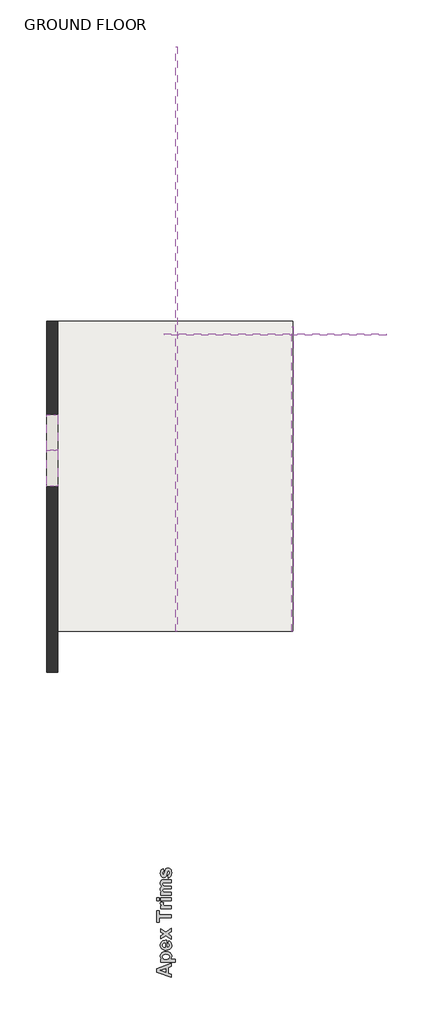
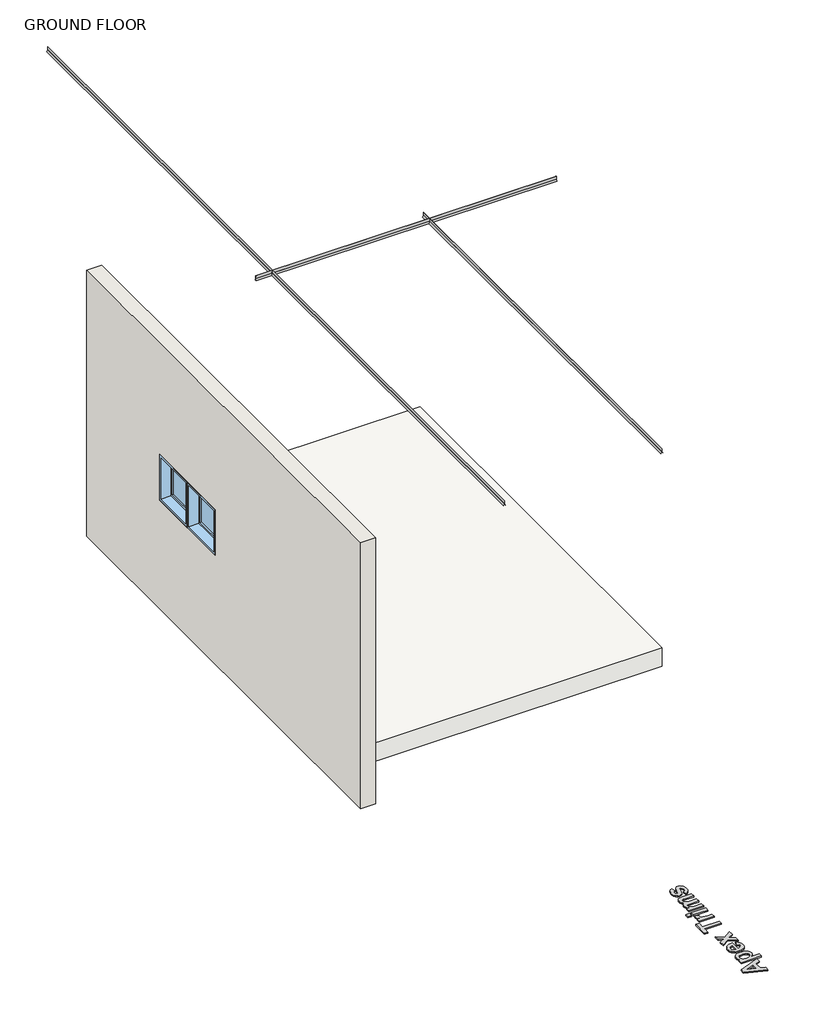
# One storey: 4 proxies, 2 windows, 1 slab, 1 wall.
"""IFC4 building model written with IfcOpenShell, lengths in millimetres."""

from ifc_helpers import new_model, si_unit, frame, origin, origin_with_axes, place, context, project, spatial, polyline, outline, extrude, transform, mapped, element, save
from components import tr11_f217a9d7, m_fixed_0610_x_0610mm_09852ef8

model = new_model("IFC4")

# Units and contexts
model_context = context("Model", 3, world=origin())
ifc_project = project(units=[si_unit("LENGTHUNIT", "METRE", prefix="MILLI")], contexts=[model_context])

# Site, building, storey
site = spatial("IfcSite", under=ifc_project)
building = spatial("IfcBuilding", under=site)
storey = spatial("IfcBuildingStorey", under=building, Name="GROUND FLOOR", Elevation=0.0)

# Proxies
placement = place(None, origin())
element("IfcBuildingElementProxy", 1, Name="600mm Arial", ObjectType="600mm Arial", at=placement, inside=storey, context=model_context, shape_type="SweptSolid", body=[
    extrude(outline(polyline([(182388.4751045, 31334.3130986), (182388.4751045, 31283.2621725), (182331.7940267, 31263.271971), (182331.7940267, 31166.9267908), (182388.4751045, 31147.1896298), (182388.4751045, 31095.4428422), (182133.4102545, 31188.5617557), (182133.4102545, 31240.3085432), (182388.4751045, 31334.3130986)]), holes=[polyline([(182287.2588942, 31247.7099786), (182194.1399807, 31214.8779704), (182287.2588942, 31182.4887831), (182287.2588942, 31247.7099786)])]), origin_with_axes(), (0.0, 0.0, 1.0), 15.0),
    extrude(outline(polyline([(182202.2372775, 31358.604989), (182202.2372775, 31407.18877), (182229.0595732, 31407.18877), (182216.5815123, 31417.2313159), (182206.7287468, 31430.278718), (182200.3236585, 31445.6351149), (182198.1886291, 31462.6046451), (182199.776063, 31477.4885679), (182204.5383648, 31491.2061321), (182212.4755344, 31503.7573375), (182223.5875719, 31515.1421843), (182237.5305002, 31524.5936433), (182253.9603425, 31531.3446855), (182294.2807688, 31536.7455192), (182335.7003398, 31531.1707201), (182352.507766, 31524.2022213), (182366.7136193, 31514.4463229), (182378.0055527, 31502.7056378), (182386.0712195, 31489.7827791), (182390.9106196, 31475.6777467), (182392.5237529, 31460.3905405), (182391.0213248, 31445.9830456), (182386.5140404, 31432.9989036), (182365.8912376, 31407.18877), (182457.3021275, 31407.18877), (182457.3021275, 31358.604989), (182202.2372775, 31358.604989)]), holes=[polyline([(182292.1299243, 31407.18877), (182320.5653534, 31410.2331638), (182340.4606647, 31419.3663453), (182352.1796041, 31432.8802909), (182356.0859172, 31449.066977), (182352.5038122, 31464.4312814), (182341.7574974, 31476.996325), (182322.8348106, 31485.3703849), (182294.7235897, 31488.1617382), (182268.1543345, 31485.2913098), (182249.4293356, 31476.6800244), (182238.3271825, 31463.8144952), (182234.6264648, 31448.1813352), (182238.2560149, 31432.0262791), (182249.144665, 31418.8602642), (182267.1500799, 31410.1066436), (182292.1299243, 31407.18877)])]), origin_with_axes(), (0.0, 0.0, 1.0), 15.0),
    extrude(outline(polyline([(182331.7940267, 31678.4482136), (182339.8913235, 31727.0319946), (182362.5621731, 31715.20235), (182379.080975, 31698.0588544), (182389.1630584, 31675.7754731), (182392.5237529, 31648.5261715), (182390.54292, 31626.523507), (182384.6004214, 31607.5810514), (182374.6962571, 31591.6988046), (182360.830427, 31578.8767667), (182332.1261424, 31565.4972489), (182296.7479139, 31561.0374097), (182274.9073535, 31562.5161152), (182255.5655683, 31566.952232), (182238.7225583, 31574.3457598), (182224.3783235, 31584.6966988), (182212.9203322, 31597.3091875), (182204.7360527, 31611.4873645), (182199.825485, 31627.2312297), (182198.1886291, 31644.5407832), (182199.8689763, 31663.7758169), (182204.9100181, 31680.8679137), (182213.3117543, 31695.8170735), (182225.074185, 31708.6232963), (182240.3080154, 31718.8279463), (182259.1239507, 31725.9723874), (182281.521991, 31730.0566196), (182307.5021362, 31731.080643), (182307.5021362, 31609.6211906), (182327.9667888, 31612.7367521), (182343.3073706, 31621.0712744), (182352.8912806, 31633.3595549), (182356.0859172, 31648.3363911), (182354.6467492, 31658.5370873), (182350.3292452, 31666.9981298), (182342.8171046, 31673.6562587), (182331.7940267, 31678.4482136)]), holes=[polyline([(182279.1615974, 31682.496862), (182259.9542399, 31679.5394509), (182245.9816584, 31671.6793796), (182237.4652632, 31660.2609258), (182234.6264648, 31646.6283675), (182237.615506, 31632.2366876), (182246.5826297, 31620.5651934), (182260.7370841, 31612.9107175), (182279.1615974, 31610.4435723), (182279.1615974, 31682.496862)])]), origin_with_axes(), (0.0, 0.0, 1.0), 15.0),
    extrude(outline(polyline([(182388.4751045, 31745.2509124), (182292.5727452, 31811.0414491), (182202.2372775, 31753.3482093), (182202.2372775, 31811.1047093), (182253.4147239, 31839.1922076), (182202.2372775, 31869.683591), (182202.2372775, 31927.440091), (182290.4219008, 31868.0388276), (182388.4751045, 31935.5373878), (182388.4751045, 31877.7808878), (182330.7818646, 31839.1922076), (182388.4751045, 31803.0074124), (182388.4751045, 31745.2509124)])), origin_with_axes(), (0.0, 0.0, 1.0), 15.0),
    extrude(outline(polyline([(182388.4751045, 32115.7022422), (182177.945387, 32115.7022422), (182177.945387, 32042.8265708), (182133.4102545, 32042.8265708), (182133.4102545, 32237.1616946), (182177.945387, 32237.1616946), (182177.945387, 32164.2860231), (182388.4751045, 32164.2860231), (182388.4751045, 32115.7022422)])), origin_with_axes(), (0.0, 0.0, 1.0), 15.0),
    extrude(outline(polyline([(182388.4751045, 32318.1346628), (182388.4751045, 32269.5508819), (182202.2372775, 32269.5508819), (182202.2372775, 32318.1346628), (182228.1739314, 32318.1346628), (182203.9769311, 32337.5555232), (182198.1886291, 32357.1661639), (182200.7506644, 32372.3327804), (182208.4367704, 32386.9616858), (182254.6799265, 32372.7914164), (182248.7492892, 32361.0882921), (182246.7724101, 32350.2708096), (182252.3076716, 32333.158944), (182260.0649452, 32326.912006), (182272.266243, 32322.1516812), (182332.7429287, 32318.1346628), (182388.4751045, 32318.1346628)])), origin_with_axes(), (0.0, 0.0, 1.0), 15.0),
    extrude(outline(polyline([(182177.945387, 32407.2049279), (182133.4102545, 32407.2049279), (182133.4102545, 32455.7887088), (182177.945387, 32455.7887088), (182177.945387, 32407.2049279)])), origin_with_axes(), (0.0, 0.0, 1.0), 15.0),
    extrude(outline(polyline([(182388.4751045, 32407.2049279), (182202.2372775, 32407.2049279), (182202.2372775, 32455.7887088), (182388.4751045, 32455.7887088), (182388.4751045, 32407.2049279)])), origin_with_axes(), (0.0, 0.0, 1.0), 15.0),
    extrude(outline(polyline([(182202.2372775, 32500.3238414), (182202.2372775, 32548.9076223), (182227.1617693, 32548.9076223), (182214.4860205, 32560.8677409), (182205.4319142, 32573.9111893), (182199.9994504, 32588.0379674), (182198.1886291, 32603.2480752), (182199.9678203, 32618.8970503), (182205.3053939, 32632.3161056), (182214.248795, 32643.5210564), (182226.8454686, 32652.5277176), (182214.248795, 32664.966241), (182205.3053939, 32678.3694813), (182199.9678203, 32692.7216237), (182198.1886291, 32708.0068529), (182200.2683059, 32726.4629963), (182206.5073364, 32741.8510232), (182216.7792002, 32753.9653384), (182230.9573772, 32762.6003463), (182246.5351846, 32766.301064), (182269.4827972, 32767.5346366), (182388.4751045, 32767.5346366), (182388.4751045, 32718.9508557), (182281.2491817, 32718.9508557), (182258.301569, 32717.7172831), (182245.2541669, 32714.0165654), (182237.2833903, 32705.634598), (182234.6264648, 32693.6468031), (182236.2158756, 32683.9442804), (182240.984108, 32674.826914), (182248.8204568, 32667.2356982), (182259.6142167, 32662.1116275), (182298.3926773, 32658.2211295), (182388.4751045, 32658.2211295), (182388.4751045, 32609.6373485), (182285.6773909, 32609.6373485), (182250.3466075, 32607.1069433), (182238.5169629, 32599.294317), (182234.6264648, 32584.9026371), (182236.1684305, 32574.5121605), (182240.7943276, 32565.2287362), (182248.3380983, 32557.7324107), (182258.6336847, 32552.7032302), (182297.3172551, 32548.9076223), (182388.4751045, 32548.9076223), (182388.4751045, 32500.3238414), (182202.2372775, 32500.3238414)])), origin_with_axes(), (0.0, 0.0, 1.0), 15.0),
    extrude(outline(polyline([(182335.8426751, 32795.8751755), (182327.7453783, 32844.4589564), (182339.9862137, 32849.0848536), (182348.8742622, 32856.8895723), (182354.2830034, 32868.1419682), (182356.0859172, 32883.1108968), (182354.3620786, 32899.3529355), (182349.1905629, 32911.0086147), (182343.5604112, 32915.7531246), (182336.285496, 32917.3346279), (182327.1760371, 32913.9818409), (182320.7867638, 32898.1035479), (182308.356148, 32851.1803454), (182297.0009544, 32825.2911366), (182279.0192621, 32809.3021384), (182255.1860075, 32803.9724723), (182232.9975164, 32808.5430168), (182214.6362633, 32822.2546503), (182202.3005376, 32845.5818238), (182198.1886291, 32878.9989882), (182201.509786, 32910.8662794), (182211.4732567, 32933.3394411), (182227.9525209, 32948.3479073), (182250.8210585, 32957.821112), (182258.9183553, 32909.237331), (182248.5278787, 32905.6631336), (182240.8892178, 32899.8748316), (182236.1921531, 32891.5244942), (182234.6264648, 32880.2641908), (182235.9549276, 32866.4260371), (182239.9403159, 32857.1742429), (182249.8088964, 32852.5562533), (182258.6020546, 32857.1742429), (182272.2029829, 32900.1595022), (182282.0241183, 32931.3862846), (182293.901208, 32951.4950988), (182309.5739055, 32962.3125813), (182330.4023038, 32965.9184088), (182354.1011306, 32960.6915405), (182374.2099449, 32945.0109354), (182382.2222359, 32933.3018804), (182387.9453009, 32919.082189), (182392.5237529, 32883.1108968), (182388.71233, 32849.79653), (182377.2780612, 32824.2473444), (182359.2963689, 32806.3210047), (182335.8426751, 32795.8751755)])), origin_with_axes(), (0.0, 0.0, 1.0), 15.0),
])
element("IfcBuildingElementProxy", 2, Name="TR11 : Trims Apex Trims", ObjectType="TR11 : Trims Apex Trims", at=placement, inside=storey, context=model_context, shape_type="SweptSolid", body=[
    extrude(outline(polyline([(2657.1464466, 184462.2345529), (2657.1464466, 184461.2345529), (2619.1464466, 184461.2345529), (2597.4958115, 184448.7345529), (2596.9958115, 184449.6005783), (2618.012472, 184461.7345529), (2596.9958115, 184473.8685275), (2597.4958115, 184474.7345529), (2619.1464466, 184462.2345529), (2657.1464466, 184462.2345529)])), frame((0.0, 37012.9193804, 0.0), z_axis=(0.0, 1.0, 0.0), x_axis=(0.0, 0.0, 1.0)), (0.0, 0.0, 1.0), 5210.0),
])
element("IfcBuildingElementProxy", 3, Name="TR11 : Trims Apex Trims", ObjectType="TR11 : Trims Apex Trims", at=placement, inside=storey, context=model_context, shape_type="SweptSolid", body=[
    extrude(outline(polyline([(2657.1464466, 182472.2345529), (2619.1464466, 182472.2345529), (2597.4958115, 182459.7345529), (2596.9958115, 182460.6005783), (2618.012472, 182472.7345529), (2596.9958115, 182484.8685275), (2597.4958115, 182485.7345529), (2619.1464466, 182473.2345529), (2657.1464466, 182473.2345529), (2657.1464466, 182472.2345529)])), frame((0.0, 37012.9193804, 0.0), z_axis=(0.0, 1.0, 0.0), x_axis=(0.0, 0.0, 1.0)), (0.0, 0.0, 1.0), 10000.0),
])
tr11_shape = tr11_f217a9d7(model_context)
element("IfcBuildingElementProxy", 4, Name="TR11 : Trims Apex Trims", ObjectType="TR11 : Trims Apex Trims", at=placement, inside=storey, context=model_context, shape_type="MappedRepresentation", body=[
    mapped(tr11_shape, transform((182261.7345529, 42093.0328206, 2619.0330047), x_axis=(1.0, 0.0, 0.0), y_axis=(0.0, 1.0, 0.0), z_axis=(0.0, 0.0, 1.0))),
])

# Slab
element("IfcSlab", 5, ObjectType="Generic Floor - 250mm", at=placement, inside=storey, context=model_context, shape_type="SweptSolid", body=[
    extrude(outline(polyline([(180366.7345529, 42312.9193804), (184466.7345529, 42312.9193804), (184466.7345529, 37012.9193804), (180366.7345529, 37012.9193804), (180366.7345529, 42312.9193804)])), frame((0.0, 0.0, -250.0), z_axis=(0.0, 0.0, 1.0), x_axis=(1.0, 0.0, 0.0)), (0.0, 0.0, 1.0), 250.0),
])

# Wall
element("IfcWall", 6, ObjectType="190mm MAXI BLOCK- plastered", at=placement, inside=storey, context=model_context, shape_type="SweptSolid", body=[
    extrude(outline(polyline([(42312.9193804, -250.0), (36312.9193804, -250.0), (36312.9193804, 3300.0), (42312.9193804, 3300.0), (42312.9193804, -250.0)]), holes=[polyline([(39497.9193804, 1200.0), (40717.9193804, 1200.0), (40717.9193804, 1810.0), (39497.9193804, 1810.0), (39497.9193804, 1200.0)])]), frame((180252.7345529, 0.0, 0.0), z_axis=(1.0, 0.0, 0.0), x_axis=(0.0, 1.0, 0.0)), (0.0, 0.0, 1.0), 190.0),
])

# Windows
m_fixed_0610_x_0610mm_shape = m_fixed_0610_x_0610mm_09852ef8(model_context)
element("IfcWindow", 7, ObjectType="M_Fixed : 0610 x 0610mm", at=placement, inside=storey, context=model_context, shape_type="MappedRepresentation", body=[
    mapped(m_fixed_0610_x_0610mm_shape, transform((180334.7345529, 40412.9193804, 285.0), x_axis=(0.0, -1.0, 0.0), y_axis=(1.0, 0.0, 0.0), z_axis=(0.0, 0.0, 1.0))),
])
element("IfcWindow", 8, ObjectType="M_Fixed : 0610 x 0610mm", at=placement, inside=storey, context=model_context, shape_type="MappedRepresentation", body=[
    mapped(m_fixed_0610_x_0610mm_shape, transform((180334.7345529, 39802.9193804, 285.0), x_axis=(0.0, -1.0, 0.0), y_axis=(1.0, 0.0, 0.0), z_axis=(0.0, 0.0, 1.0))),
])

save(model, "model.ifc")
